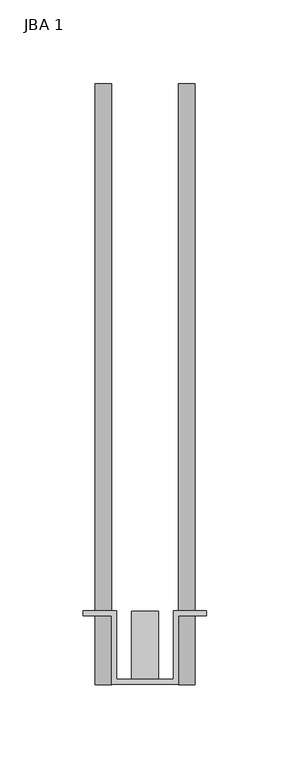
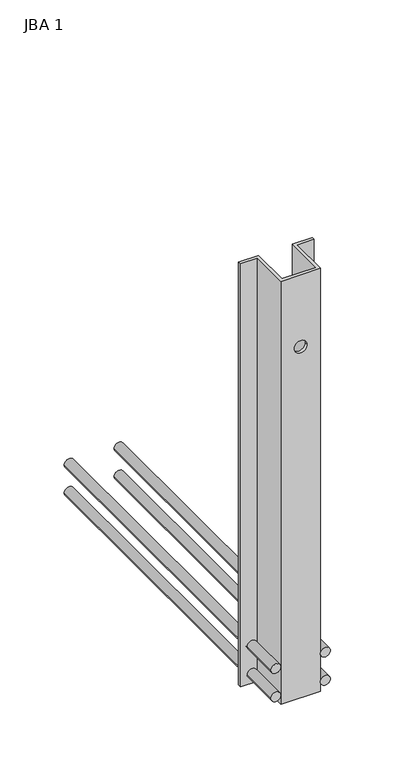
"""IFC4 building model written with IfcOpenShell, lengths in millimetres: fastener geometry, JBA JORDAHL® support corbels_1 : JBA 1."""

from ifc_helpers import new_model, si_unit, point, frame, frame_2d, origin, place, context, project, spatial, polyline, circle_curve, trimmed, segment, composite_curve, outline, extrude, source, transform, mapped, element, save
from ifc_brep_helpers import plane_surface, revolved_surface, advanced_brep


def jba_1_80170435(model_context):
    return source(origin(), model_context, "Body", "SolidModel", [
        extrude(outline(composite_curve([segment(trimmed(circle_curve(frame_2d((-30.0, -25.0)), 5.0), [point((-30.0, -30.0))], [point((-30.0, -20.0))], False, "CARTESIAN"), True, "CONTINUOUS"), segment(trimmed(circle_curve(frame_2d((-30.0, -25.0)), 5.0), [point((-30.0, -20.0))], [point((-30.0, -30.0))], False, "CARTESIAN"), True, "CONTINUOUS")], self_intersect=False)), frame((0.0, 0.0, 0.0), z_axis=(0.0, 1.0, 0.0), x_axis=(0.0, 0.0, 1.0)), (0.0, 0.0, 1.0), 360.0),
        extrude(outline(composite_curve([segment(trimmed(circle_curve(frame_2d((-30.0, 25.0)), 5.0), [point((-30.0, 20.0))], [point((-30.0, 30.0))], False, "CARTESIAN"), True, "CONTINUOUS"), segment(trimmed(circle_curve(frame_2d((-30.0, 25.0)), 5.0), [point((-30.0, 30.0))], [point((-30.0, 20.0))], False, "CARTESIAN"), True, "CONTINUOUS")], self_intersect=False)), frame((0.0, 0.0, 0.0), z_axis=(0.0, 1.0, 0.0), x_axis=(0.0, 0.0, 1.0)), (0.0, 0.0, 1.0), 360.0),
        extrude(outline(composite_curve([segment(trimmed(circle_curve(frame_2d((-60.0, -25.0)), 5.0), [point((-60.0, -30.0))], [point((-60.0, -20.0))], False, "CARTESIAN"), True, "CONTINUOUS"), segment(trimmed(circle_curve(frame_2d((-60.0, -25.0)), 5.0), [point((-60.0, -20.0))], [point((-60.0, -30.0))], False, "CARTESIAN"), True, "CONTINUOUS")], self_intersect=False)), frame((0.0, 0.0, 0.0), z_axis=(0.0, 1.0, 0.0), x_axis=(0.0, 0.0, 1.0)), (0.0, 0.0, 1.0), 360.0),
        extrude(outline(composite_curve([segment(trimmed(circle_curve(frame_2d((-60.0, 25.0)), 5.0), [point((-60.0, 20.0))], [point((-60.0, 30.0))], False, "CARTESIAN"), True, "CONTINUOUS"), segment(trimmed(circle_curve(frame_2d((-60.0, 25.0)), 5.0), [point((-60.0, 30.0))], [point((-60.0, 20.0))], False, "CARTESIAN"), True, "CONTINUOUS")], self_intersect=False)), frame((0.0, 0.0, 0.0), z_axis=(0.0, 1.0, 0.0), x_axis=(0.0, 0.0, 1.0)), (0.0, 0.0, 1.0), 360.0),
        advanced_brep(
        [(-37.0, 41.0, 380.0), (-20.0, 41.0, 380.0), (-20.0, 0.0, 380.0), (20.0, 0.0, 380.0), (20.0, 41.0, 380.0), (37.0, 41.0, 380.0), (37.0, 44.0, 380.0), (17.0, 44.0, 380.0), (17.0, 3.0, 380.0), (-17.0, 3.0, 380.0), (-17.0, 44.0, 380.0), (-37.0, 44.0, 380.0), (-37.0, 41.0, -70.0), (-37.0, 44.0, -70.0), (-17.0, 44.0, -70.0), (-17.0, 3.0, -70.0), (17.0, 3.0, -70.0), (17.0, 44.0, -70.0), (37.0, 44.0, -70.0), (37.0, 41.0, -70.0), (20.0, 41.0, -70.0), (20.0, 0.0, -70.0), (-20.0, 0.0, -70.0), (-20.0, 41.0, -70.0), (6.5, 0.0, 303.5690188), (-6.5, 0.0, 303.5690188), (-6.5, 3.0, 303.5690188), (6.5, 3.0, 303.5690188)],
        [
            (0, 1),
            (1, 2),
            (2, 3),
            (3, 4),
            (4, 5),
            (5, 6),
            (6, 7),
            (7, 8),
            (8, 9),
            (9, 10),
            (10, 11),
            (11, 0),
            (12, 13),
            (13, 14),
            (14, 15),
            (15, 16),
            (16, 17),
            (17, 18),
            (18, 19),
            (19, 20),
            (20, 21),
            (21, 22),
            (22, 23),
            (23, 12),
            (0, 12),
            (23, 1),
            (22, 2),
            (21, 3),
            (24, 25, circle_curve(frame((0.0, 0.0, 303.5690188), z_axis=(0.0, 1.0, 0.0), x_axis=(1.0, 0.0, 0.0)), 6.5)),
            (25, 24, circle_curve(frame((0.0, 0.0, 303.5690188), z_axis=(0.0, 1.0, 0.0), x_axis=(1.0, 0.0, 0.0)), 6.5)),
            (20, 4),
            (19, 5),
            (18, 6),
            (17, 7),
            (16, 8),
            (15, 9),
            (26, 27, circle_curve(frame((0.0, 3.0, 303.5690188), z_axis=(0.0, -1.0, 0.0), x_axis=(1.0, 0.0, 0.0)), 6.5)),
            (27, 26, circle_curve(frame((0.0, 3.0, 303.5690188), z_axis=(0.0, -1.0, 0.0), x_axis=(1.0, 0.0, 0.0)), 6.5)),
            (14, 10),
            (13, 11),
            (24, 27),
            (26, 25),
        ],
        [
            plane_surface(frame((0.0, 44.0, 380.0), z_axis=(0.0, 0.0, 1.0), x_axis=(0.0, -1.0, 0.0))),
            plane_surface(frame((0.0, 44.0, -70.0), z_axis=(0.0, 0.0, -1.0), x_axis=(0.0, -1.0, 0.0))),
            plane_surface(frame((-37.0, 41.0, 380.0), z_axis=(0.0, -1.0, 0.0), x_axis=(0.0, 0.0, -1.0))),
            plane_surface(frame((-20.0, 41.0, 380.0), z_axis=(-1.0, 0.0, 0.0), x_axis=(0.0, 0.0, -1.0))),
            plane_surface(frame((-20.0, 0.0, 380.0), z_axis=(0.0, -1.0, 0.0), x_axis=(0.0, 0.0, -1.0))),
            plane_surface(frame((20.0, 0.0, 380.0), z_axis=(1.0, 0.0, 0.0), x_axis=(0.0, 0.0, -1.0))),
            plane_surface(frame((20.0, 41.0, 380.0), z_axis=(0.0, -1.0, 0.0), x_axis=(0.0, 0.0, -1.0))),
            plane_surface(frame((37.0, 41.0, 380.0), z_axis=(1.0, 0.0, 0.0), x_axis=(0.0, 0.0, -1.0))),
            plane_surface(frame((37.0, 44.0, 380.0), z_axis=(0.0, 1.0, 0.0), x_axis=(0.0, 0.0, -1.0))),
            plane_surface(frame((17.0, 44.0, 380.0), z_axis=(-1.0, 0.0, 0.0), x_axis=(0.0, 0.0, -1.0))),
            plane_surface(frame((17.0, 3.0, 380.0), z_axis=(0.0, 1.0, 0.0), x_axis=(0.0, 0.0, -1.0))),
            plane_surface(frame((-17.0, 3.0, 380.0), z_axis=(1.0, 0.0, 0.0), x_axis=(0.0, 0.0, -1.0))),
            plane_surface(frame((-17.0, 44.0, 380.0), z_axis=(0.0, 1.0, 0.0), x_axis=(0.0, 0.0, -1.0))),
            plane_surface(frame((-37.0, 44.0, 380.0), z_axis=(-1.0, 0.0, 0.0), x_axis=(0.0, 0.0, -1.0))),
            revolved_surface(polyline([(6.5, 0.0, 303.5690188), (6.5, 3.0, 303.5690188)]), (0.0, 3.0, 303.5690188), (0.0, -1.0, 0.0)),
        ],
        [
            (0, [[1, 2, 3, 4, 5, 6, 7, 8, 9, 10, 11, 12]]),
            (1, [[13, 14, 15, 16, 17, 18, 19, 20, 21, 22, 23, 24]]),
            (2, [[-1, 25, -24, 26]]),
            (3, [[-2, -26, -23, 27]]),
            (4, [[-3, -27, -22, 28], [29, 30]]),
            (5, [[-4, -28, -21, 31]]),
            (6, [[-5, -31, -20, 32]]),
            (7, [[-6, -32, -19, 33]]),
            (8, [[-7, -33, -18, 34]]),
            (9, [[-8, -34, -17, 35]]),
            (10, [[-9, -35, -16, 36], [37, 38]]),
            (11, [[-10, -36, -15, 39]]),
            (12, [[-11, -39, -14, 40]]),
            (13, [[-12, -40, -13, -25]]),
            (14, [[41, -37, 42, -29]]),
            (14, [[-41, -30, -42, -38]]),
        ],
    ),
        extrude(outline(composite_curve([segment(trimmed(circle_curve(frame_2d((50.0, 0.0)), 8.0), [point((50.0, -8.0))], [point((50.0, 8.0))], False, "CARTESIAN"), True, "CONTINUOUS"), segment(trimmed(circle_curve(frame_2d((50.0, 0.0)), 8.0), [point((50.0, 8.0))], [point((50.0, -8.0))], False, "CARTESIAN"), True, "CONTINUOUS")], self_intersect=False)), frame((0.0, 3.0, 0.0), z_axis=(0.0, 1.0, 0.0), x_axis=(0.0, 0.0, 1.0)), (0.0, 0.0, 1.0), 41.0),
    ])


if __name__ == "__main__":
    model = new_model("IFC4")
    model_context = context("Model", 3, world=origin())
    ifc_project = project(units=[si_unit("LENGTHUNIT", "METRE", prefix="MILLI")], contexts=[model_context])
    site = spatial("IfcSite", under=ifc_project)
    building = spatial("IfcBuilding", under=site)
    placement = place(None, origin())
    jba_1_shape = jba_1_80170435(model_context)
    element("IfcFastener", 1, ObjectType="JBA JORDAHL® support corbels_1 : JBA 1", at=placement, inside=building, context=model_context, shape_type="MappedRepresentation", body=[
        mapped(jba_1_shape, transform((0.0, 0.0, 0.0), x_axis=(1.0, 0.0, 0.0), y_axis=(0.0, 1.0, 0.0), z_axis=(0.0, 0.0, 1.0))),
    ])
    save(model, "model.ifc")
